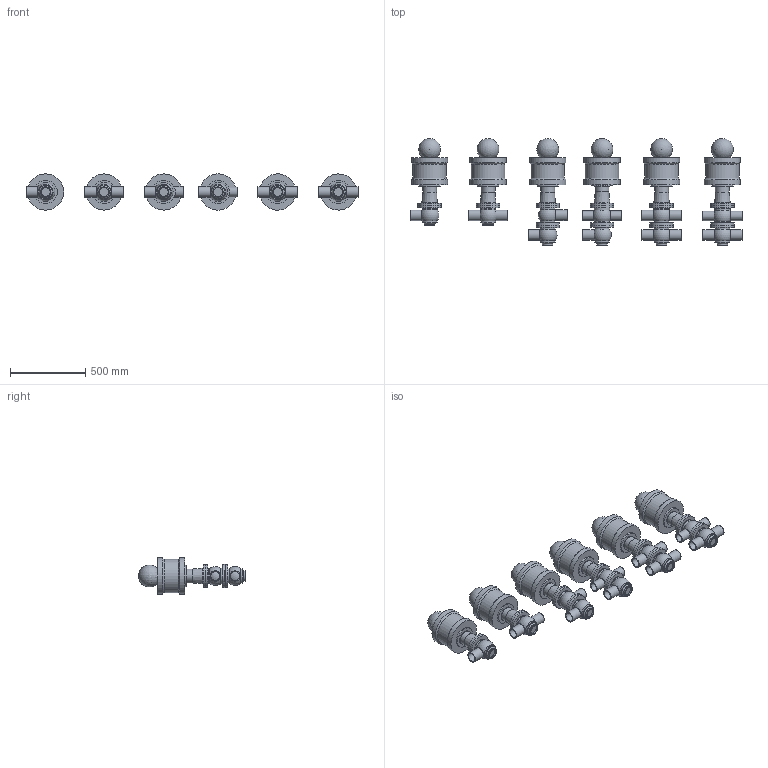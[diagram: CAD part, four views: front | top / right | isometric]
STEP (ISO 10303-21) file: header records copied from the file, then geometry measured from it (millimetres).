
FILE_DESCRIPTION(/* description */ (''),/* implementation_level */ '2;1');
FILE_NAME(/* name */ 'C:\Users\marz-m\Desktop\PDF\BBZQ 3D STEP\BBZQ-DN65-CIL.207.stp',/* time_stamp */ '2018-04-13T15:19:46+02:00',/* author */ ('marz-m'),/* organization */ (''),/* preprocessor_version */ 'ST-DEVELOPER v17',/* originating_system */ 'Autodesk Inventor 2018',/* authorisation */ '');
FILE_SCHEMA (('AUTOMOTIVE_DESIGN { 1 0 10303 214 3 1 1 }'));
Length unit declared in the file: millimetre
Products named in the file (9): BBZQ-DN65-CIL.207; ASSEMBL-CIL207--360-BBZQ-DN065; CILINDRO 207; SAGOMA-GIOTTO-; COR-INF-L-BBZQ-DN065-SALD; COR-SUP-T-BBZQ-DN65; CORPO SUP- DN63.5 T; COR-INF-T-BBZQ-DN065-SALD; COR-SUP-L-BBZQ-DN065-SALD
Assembly tree (28 placements, depth 2):
  BBZQ-DN65-CIL.207
    ASSEMBL-CIL207--360-BBZQ-DN065  x6
    COR-INF-L-BBZQ-DN065-SALD  x3
    COR-INF-T-BBZQ-DN065-SALD  x3
    CORPO SUP- DN63.5 T  x2
    CILINDRO 207  x6
    SAGOMA-GIOTTO-  x6
    COR-SUP-T-BBZQ-DN65
    COR-SUP-L-BBZQ-DN065-SALD
Bounding box: 2201.18 x 708.97 x 240 mm (x, y, z)
Volume: 72884934.1 mm3; surface area: 3914193.4 mm2
Topology: 28 solids, 28 shells, 372 faces, 898 edges, 658 vertices
Faces by surface type: cylinder 144, plane 116, torus 44, cone 36, sphere 32
Full cylindrical faces by diameter (mm): 25.4 x6, 53.5 x4, 60 x18, 63.5 x4, 68 x6, 69.8 x6, 70 x24, 80 x6, 92 x6, 99 x12, 101 x8, 141 x6, 154 x20, 221 x6, 240 x12
Entity records: 4254 total; most frequent: DIRECTION 838, CARTESIAN_POINT 660, ORIENTED_EDGE 574, AXIS2_PLACEMENT_3D 391, EDGE_CURVE 287, CIRCLE 231, VERTEX_POINT 213, EDGE_LOOP 158
